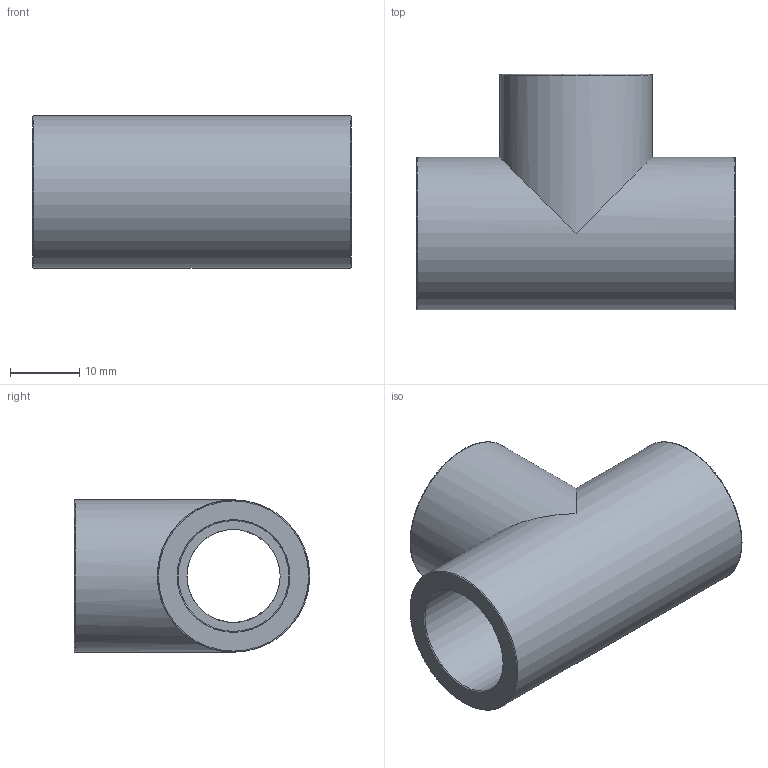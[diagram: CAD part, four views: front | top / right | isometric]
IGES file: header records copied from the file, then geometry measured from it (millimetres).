
Global section: file name: 050402016003.ipt; native system: Autodesk Inventor 2015; preprocessor: unknown; author: KIM; date: 20171207.164525; units: millimetre
Bounding box: 46 x 34 x 22 mm (x, y, z)
Volume: 11597.4 mm3; surface area: 7334.5 mm2
Topology: 1 solids, 1 shells, 18 faces, 55 edges, 42 vertices
Faces by surface type: revolution 10, plane 6, cylinder 2
Full cylindrical faces by diameter (mm): 22 x2
